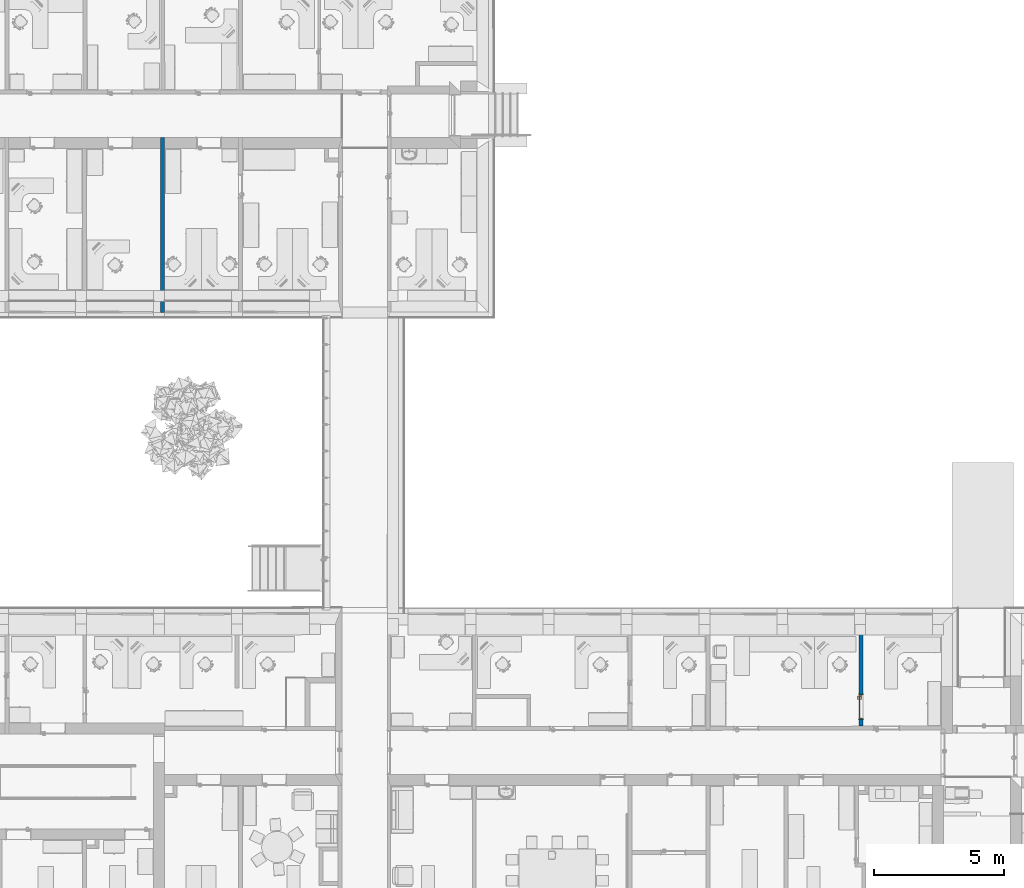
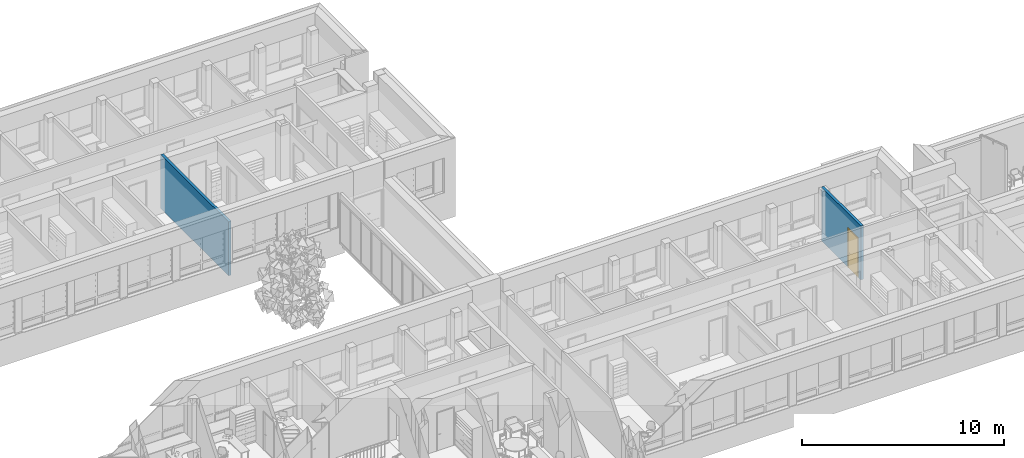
# One storey, part 18 of 194: 2 walls, 1 door, 1 opening.
"""IFC2X3 building model written with IfcOpenShell, lengths in millimetres."""

from ifc_helpers import new_model, entity, si_unit, converted_unit, derived_unit, money_unit, direction, frame, origin_with_axes, origin_2d_with_axis, place, context, subcontext, project, spatial, polyline, rectangle, outline, extrude, open_shell, faceted_brep, surface_model, source, transform, mapped, material, layer, layer_set, layer_usage, type_object, element, fill, save


model = new_model("IFC2X3")

# Units and contexts
model_context = context("Model", 3, precision=1e-05, world=origin_with_axes(), true_north=direction((0.0, 1.0)))
body_context = subcontext(model_context, "Body", "Model", "MODEL_VIEW")
ifc_project = project(units=[si_unit("LENGTHUNIT", "METRE", prefix="MILLI"), si_unit("AREAUNIT", "SQUARE_METRE"), si_unit("VOLUMEUNIT", "CUBIC_METRE"), converted_unit("PLANEANGLEUNIT", "DEGREE", entity("IfcPlaneAngleMeasure", 0.0174532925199), si_unit("PLANEANGLEUNIT", "RADIAN"), dimensions=[0, 0, 0, 0, 0, 0, 0]), si_unit("SOLIDANGLEUNIT", "STERADIAN"), money_unit("EUR"), converted_unit("TIMEUNIT", "Year", entity("IfcTimeMeasure", 31556926.0), si_unit("TIMEUNIT", "SECOND"), dimensions=[0, 0, 1, 0, 0, 0, 0]), si_unit("MASSUNIT", "GRAM", prefix="KILO"), si_unit("THERMODYNAMICTEMPERATUREUNIT", "DEGREE_CELSIUS"), si_unit("LUMINOUSINTENSITYUNIT", "LUMEN"), si_unit("ENERGYUNIT", "JOULE", prefix="MEGA"), derived_unit("THERMALCONDUCTANCEUNIT", [(si_unit("POWERUNIT", "WATT"), 1), (si_unit("LENGTHUNIT", "METRE"), -1), (si_unit("THERMODYNAMICTEMPERATUREUNIT", "KELVIN"), -1)]), derived_unit("SPECIFICHEATCAPACITYUNIT", [(si_unit("ENERGYUNIT", "JOULE"), 1), (si_unit("MASSUNIT", "GRAM", prefix="KILO"), -1), (si_unit("THERMODYNAMICTEMPERATUREUNIT", "KELVIN"), -1)]), derived_unit("MASSDENSITYUNIT", [(si_unit("MASSUNIT", "GRAM", prefix="KILO"), 1), (si_unit("VOLUMEUNIT", "CUBIC_METRE"), -1)])], contexts=[model_context])

# Site, building, storey
site_placement = place(None, origin_with_axes())
site = spatial("IfcSite", under=ifc_project, at=site_placement, Name="Site", CompositionType="ELEMENT")
building_placement = place(site_placement, origin_with_axes())
building = spatial("IfcBuilding", under=site, at=building_placement, Name="Building", CompositionType="ELEMENT")
storey_placement = place(building_placement, frame((0.0, 0.0, 3000.0), z_axis=(0.0, 0.0, 1.0), x_axis=(1.0, 0.0, 0.0)))
storey = spatial("IfcBuildingStorey", under=building, at=storey_placement, Name="2 KORRUS", CompositionType="ELEMENT", Elevation=3000.0)

# Wall
ifc_material_1 = material(Name="Kivi -Ol.Olev Konstruktsioon")
ifc_layer_1 = layer(ifc_material_1, 150.0, ventilated="UNKNOWN")
ifc_layer_set_1 = layer_set([ifc_layer_1], Name="ol.olev ss 150")
ifc_layer_usage_1 = layer_usage(ifc_layer_set_1, "AXIS2", "NEGATIVE", 0.0)
wall_type_1 = type_object("IfcWallType", Name="SW - 022", PredefinedType="NOTDEFINED")
wall_1_placement = place(storey_placement, frame((31151.0464591, 65630.0453062, 0.0), z_axis=(0.0, 0.0, 1.0), x_axis=(0.00055437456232, -0.999999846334, 0.0)))
element("IfcWallStandardCase", 1, at=wall_1_placement, inside=storey, type_object=wall_type_1, material=ifc_layer_usage_1, Name="ol.olev ss 150", context=body_context, shape_type="SweptSolid", body=[
    extrude(outline(polyline([(9.09494701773e-10, -150.0), (6721.97422196, -150.0), (6721.97422196, 0.0), (0.0, 0.0), (9.09494701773e-10, -150.0)])), origin_with_axes(), (0.0, 0.0, 1.0), 3250.0),
])

# Wall, opening, door
ifc_material_2 = material(Name="Kivi -  Uus Konstruktsioon")
ifc_layer_2 = layer(ifc_material_2, 150.0, ventilated="UNKNOWN")
ifc_layer_set_2 = layer_set([ifc_layer_2], Name="uus ss 150")
ifc_layer_usage_2 = layer_usage(ifc_layer_set_2, "AXIS2", "NEGATIVE", 0.0)
wall_type_2 = type_object("IfcWallType", Name="SS-2", PredefinedType="NOTDEFINED")
wall_2_placement = place(storey_placement, frame((58049.2489502, 47302.325893, 0.0), z_axis=(0.0, 0.0, 1.0), x_axis=(0.0, -1.0, 0.0)))
wall_2 = element("IfcWallStandardCase", 2, at=wall_2_placement, inside=storey, type_object=wall_type_2, material=ifc_layer_usage_2, Name="uus ss 150", context=body_context, shape_type="SweptSolid", body=[
    extrude(outline(polyline([(430.0, -150.0), (4336.96371446, -150.0), (4336.84135687, 0.0), (430.0, 0.0), (430.0, -150.0)])), origin_with_axes(), (0.0, 0.0, 1.0), 3250.0),
])
opening_placement = place(wall_2_placement, frame((3582.94916904, 0.0, 0.0), z_axis=(0.0, 0.0, 1.0), x_axis=(1.0, 0.0, 0.0)))
opening = element("IfcOpeningElement", 3, at=opening_placement, cuts=wall_2, Name="Siseuks * Door 22", context=body_context, shape_type="SweptSolid", body=[
    extrude(rectangle(XDim=950.000000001, YDim=2370.0, at=origin_2d_with_axis()), frame((0.0, 150.0, 1185.0), z_axis=(0.0, 1.0, 0.0), x_axis=(1.0, 0.0, 0.0)), (0.0, 0.0, -1.0), 450.0),
    extrude(rectangle(XDim=1024.0, YDim=2407.0, at=origin_2d_with_axis()), frame((0.0, 0.0, 1203.5), z_axis=(0.0, 1.0, 0.0), x_axis=(1.0, 0.0, 0.0)), (0.0, 0.0, 1.0), 150.0),
    extrude(rectangle(XDim=1024.0, YDim=2407.0, at=origin_2d_with_axis()), frame((0.0, -150.0, 1203.5), z_axis=(0.0, -1.0, 0.0), x_axis=(1.0, 0.0, 0.0)), (0.0, 0.0, 1.0), 150.0),
])
door_style = type_object("IfcDoorStyle", Name="SU-B225 A   950×2\xa0370", ConstructionType="NOTDEFINED", OperationType="SINGLE_SWING_LEFT", ParameterTakesPrecedence=False, Sizeable=False)
shared_shape = source(origin_with_axes(), body_context, "Body", "SurfaceModel", [
    faceted_brep([(475.0, -115.0, 0.0), (475.0, -150.0, 0.0), (450.0, -150.0, 0.0), (450.0, -115.0, 0.0), (475.0, -115.0, 2370.0), (475.0, -150.0, 2370.0), (450.0, -150.0, 2345.0), (450.0, -115.0, 2345.0)], [[[0, 1, 2, 3]], [[4, 5, 1, 0]], [[1, 5, 6, 2]], [[3, 2, 6, 7]], [[0, 3, 7, 4]], [[7, 6, 5, 4]]]),
    faceted_brep([(-475.0, -115.0, 2370.0), (-475.0, -150.0, 2370.0), (-450.0, -150.0, 2345.0), (-450.0, -115.0, 2345.0), (-475.0, -115.0, 0.0), (-475.0, -150.0, 0.0), (-450.0, -150.0, 0.0), (-450.0, -115.0, 0.0)], [[[0, 1, 2, 3]], [[4, 5, 1, 0]], [[1, 5, 6, 2]], [[3, 2, 6, 7]], [[0, 3, 7, 4]], [[7, 6, 5, 4]]]),
    faceted_brep([(450.0, -115.0, 2345.0), (450.0, -150.0, 2345.0), (-450.0, -150.0, 2345.0), (-450.0, -115.0, 2345.0), (475.0, -115.0, 2370.0), (475.0, -150.0, 2370.0), (-475.0, -150.0, 2370.0), (-475.0, -115.0, 2370.0)], [[[0, 1, 2, 3]], [[4, 5, 1, 0]], [[1, 5, 6, 2]], [[3, 2, 6, 7]], [[0, 3, 7, 4]], [[7, 6, 5, 4]]]),
    faceted_brep([(512.0, -169.0, 0.0), (462.0, -169.0, 0.0), (462.0, -150.0, 0.0), (512.0, -150.0, 0.0), (512.0, -169.0, 2407.0), (462.0, -169.0, 2357.0), (462.0, -150.0, 2357.0), (512.0, -150.0, 2407.0)], [[[0, 1, 2, 3]], [[0, 4, 5, 1]], [[1, 5, 6, 2]], [[3, 2, 6, 7]], [[4, 0, 3, 7]], [[5, 4, 7, 6]]]),
    faceted_brep([(-512.0, -169.0, 2407.0), (-462.0, -169.0, 2357.0), (-462.0, -150.0, 2357.0), (-512.0, -150.0, 2407.0), (-512.0, -169.0, 0.0), (-462.0, -169.0, 0.0), (-462.0, -150.0, 0.0), (-512.0, -150.0, 0.0)], [[[0, 1, 2, 3]], [[0, 4, 5, 1]], [[1, 5, 6, 2]], [[3, 2, 6, 7]], [[4, 0, 3, 7]], [[5, 4, 7, 6]]]),
    faceted_brep([(512.0, -169.0, 2407.0), (462.0, -169.0, 2357.0), (462.0, -150.0, 2357.0), (512.0, -150.0, 2407.0), (-512.0, -169.0, 2407.0), (-462.0, -169.0, 2357.0), (-462.0, -150.0, 2357.0), (-512.0, -150.0, 2407.0)], [[[0, 1, 2, 3]], [[0, 4, 5, 1]], [[1, 5, 6, 2]], [[3, 2, 6, 7]], [[4, 0, 3, 7]], [[5, 4, 7, 6]]]),
    faceted_brep([(512.0, 19.0, 0.0), (512.0, 0.0, 0.0), (462.0, 0.0, 0.0), (462.0, 19.0, 0.0), (512.0, 19.0, 2407.0), (512.0, 0.0, 2407.0), (462.0, 0.0, 2357.0), (462.0, 19.0, 2357.0)], [[[0, 1, 2, 3]], [[4, 5, 1, 0]], [[1, 5, 6, 2]], [[3, 2, 6, 7]], [[0, 3, 7, 4]], [[7, 6, 5, 4]]]),
    faceted_brep([(-512.0, 19.0, 2407.0), (-512.0, 0.0, 2407.0), (-462.0, 0.0, 2357.0), (-462.0, 19.0, 2357.0), (-512.0, 19.0, 0.0), (-512.0, 0.0, 0.0), (-462.0, 0.0, 0.0), (-462.0, 19.0, 0.0)], [[[0, 1, 2, 3]], [[4, 5, 1, 0]], [[1, 5, 6, 2]], [[3, 2, 6, 7]], [[0, 3, 7, 4]], [[7, 6, 5, 4]]]),
    faceted_brep([(512.0, 19.0, 2407.0), (512.0, 0.0, 2407.0), (462.0, 0.0, 2357.0), (462.0, 19.0, 2357.0), (-512.0, 19.0, 2407.0), (-512.0, 0.0, 2407.0), (-462.0, 0.0, 2357.0), (-462.0, 19.0, 2357.0)], [[[0, 1, 2, 3]], [[4, 5, 1, 0]], [[1, 5, 6, 2]], [[3, 2, 6, 7]], [[0, 3, 7, 4]], [[7, 6, 5, 4]]]),
    faceted_brep([(435.0, -40.0, 0.0), (435.0, -115.0, 0.0), (435.0, -115.0, 2330.0), (435.0, -40.0, 2330.0), (447.0, -40.0, 0.0), (447.0, 0.0, 0.0), (475.0, 0.0, 0.0), (475.0, -115.0, 0.0), (475.0, -115.0, 2330.0), (447.0, -40.0, 2330.0), (475.0, 0.0, 2330.0), (447.0, 0.0, 2330.0)], [[[0, 1, 2, 3]], [[4, 5, 6, 7, 1, 0]], [[1, 7, 8, 2]], [[9, 3, 2, 8, 10, 11]], [[9, 4, 0, 3]], [[11, 5, 4, 9]], [[11, 10, 6, 5]], [[6, 10, 8, 7]]]),
    faceted_brep([(-447.0, -40.0, 2330.0), (-447.0, 0.0, 2330.0), (-475.0, 0.0, 2330.0), (-475.0, -115.0, 2330.0), (-435.0, -115.0, 2330.0), (-435.0, -40.0, 2330.0), (-447.0, -40.0, 0.0), (-447.0, 0.0, 0.0), (-475.0, 0.0, 0.0), (-475.0, -115.0, 0.0), (-435.0, -115.0, 0.0), (-435.0, -40.0, 0.0)], [[[0, 1, 2, 3, 4, 5]], [[0, 6, 7, 1]], [[7, 8, 2, 1]], [[2, 8, 9, 3]], [[3, 9, 10, 4]], [[5, 4, 10, 11]], [[5, 11, 6, 0]], [[6, 11, 10, 9, 8, 7]]]),
    faceted_brep([(447.0, 0.0, 2342.0), (-447.0, 0.0, 2342.0), (-447.0, 0.0, 2330.0), (-475.0, 0.0, 2330.0), (-475.0, 0.0, 2370.0), (475.0, 0.0, 2370.0), (475.0, 0.0, 2330.0), (447.0, 0.0, 2330.0), (447.0, -40.0, 2342.0), (-447.0, -40.0, 2342.0), (-447.0, -40.0, 2330.0), (-435.0, -40.0, 2330.0), (-435.0, -115.0, 2330.0), (-475.0, -115.0, 2330.0), (-475.0, -115.0, 2370.0), (475.0, -115.0, 2370.0), (475.0, -115.0, 2330.0), (447.0, -40.0, 2330.0), (435.0, -115.0, 2330.0), (435.0, -40.0, 2330.0)], [[[0, 1, 2, 3, 4, 5, 6, 7]], [[0, 8, 9, 1]], [[1, 9, 10, 2]], [[10, 11, 12, 13, 3, 2]], [[4, 3, 13, 14]], [[5, 4, 14, 15]], [[6, 5, 15, 16]], [[17, 7, 6, 16, 18, 19]], [[7, 17, 8, 0]], [[10, 9, 8, 17, 19, 11]], [[19, 18, 12, 11]], [[12, 18, 16, 15, 14, 13]]]),
    faceted_brep([(425.5, -40.0, 1060.0), (368.5, -40.0, 1060.0), (368.5, -43.0, 1060.0), (425.5, -43.0, 1060.0), (425.5, -40.0, 870.0), (368.5, -40.0, 870.0), (368.5, -43.0, 870.0), (425.5, -43.0, 870.0)], [[[0, 1, 2, 3]], [[0, 4, 5, 1]], [[1, 5, 6, 2]], [[3, 2, 6, 7]], [[4, 0, 3, 7]], [[5, 4, 7, 6]]]),
    surface_model("IfcShellBasedSurfaceModel", [(387.0, -53.0, 1000.0), (389.928932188, -53.0, 992.928932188), (389.928932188, -72.303560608, 992.928932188), (387.0, -72.0150859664, 1000.0), (397.0, -53.0, 990.0), (397.0, -73.0, 990.0), (388.816790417, -77.8946748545, 992.928932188), (386.057796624, -76.751862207, 1000.0), (389.928932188, -53.0, 1007.07106781), (389.928932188, -72.303560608, 1007.07106781), (404.071067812, -53.0, 992.928932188), (404.071067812, -73.696439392, 992.928932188), (395.47759065, -80.6536686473, 990.0), (386.044179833, -82.0441798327, 992.928932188), (383.932537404, -79.9325374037, 1000.0), (388.816790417, -77.8946748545, 1007.07106781), (397.0, -53.0, 1010.0), (397.0, -73.0, 1010.0), (407.0, -53.0, 1000.0), (407.0, -73.9849140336, 1000.0), (402.138390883, -83.4126624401, 992.928932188), (391.142135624, -87.1421356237, 990.0), (381.894674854, -84.8167904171, 992.928932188), (380.751862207, -82.0577966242, 1000.0), (386.044179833, -82.0441798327, 1007.07106781), (395.47759065, -80.6536686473, 1010.0), (404.071067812, -53.0, 1007.07106781), (404.071067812, -73.696439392, 1007.07106781), (404.897384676, -84.5554750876, 1000.0), (396.240091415, -92.2400914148, 992.928932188), (384.653668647, -91.4775906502, 990.0), (376.303560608, -85.9289321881, 992.928932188), (376.015085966, -83.0, 1000.0), (381.894674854, -84.8167904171, 1007.07106781), (391.142135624, -87.1421356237, 1010.0), (402.138390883, -83.4126624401, 1007.07106781), (398.351733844, -94.3517338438, 1000.0), (387.41266244, -98.1383908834, 992.928932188), (377.0, -93.0, 990.0), (307.696439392, -85.9289321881, 992.928932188), (307.984914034, -83.0, 1000.0), (376.303560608, -85.9289321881, 1007.07106781), (384.653668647, -91.4775906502, 1010.0), (396.240091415, -92.2400914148, 1007.07106781), (388.555475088, -100.897384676, 1000.0), (377.696439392, -100.071067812, 992.928932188), (307.0, -93.0, 990.0), (302.105325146, -84.8167904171, 992.928932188), (303.248137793, -82.0577966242, 1000.0), (307.696439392, -85.9289321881, 1007.07106781), (377.0, -93.0, 1010.0), (387.41266244, -98.1383908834, 1007.07106781), (377.984914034, -103.0, 1000.0), (306.303560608, -100.071067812, 992.928932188), (299.346331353, -91.4775906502, 990.0), (297.955820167, -82.0441798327, 992.928932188), (300.067462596, -79.9325374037, 1000.0), (302.105325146, -84.8167904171, 1007.07106781), (307.0, -93.0, 1010.0), (377.696439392, -100.071067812, 1007.07106781), (306.015085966, -103.0, 1000.0), (296.58733756, -98.1383908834, 992.928932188), (292.857864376, -87.1421356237, 990.0), (295.183209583, -77.8946748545, 992.928932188), (297.942203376, -76.751862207, 1000.0), (297.955820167, -82.0441798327, 1007.07106781), (299.346331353, -91.4775906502, 1010.0), (306.303560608, -100.071067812, 1007.07106781), (295.444524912, -100.897384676, 1000.0), (287.759908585, -92.2400914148, 992.928932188), (288.52240935, -80.6536686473, 990.0), (294.071067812, -72.303560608, 992.928932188), (297.0, -72.0150859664, 1000.0), (295.183209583, -77.8946748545, 1007.07106781), (292.857864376, -87.1421356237, 1010.0), (296.58733756, -98.1383908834, 1007.07106781), (285.648266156, -94.3517338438, 1000.0), (281.861609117, -83.4126624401, 992.928932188), (287.0, -73.0, 990.0), (294.071067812, -53.0, 992.928932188), (297.0, -53.0, 1000.0), (294.071067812, -72.303560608, 1007.07106781), (288.52240935, -80.6536686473, 1010.0), (287.759908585, -92.2400914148, 1007.07106781), (279.102615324, -84.5554750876, 1000.0), (279.928932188, -73.696439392, 992.928932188), (287.0, -53.0, 990.0), (279.928932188, -53.0, 992.928932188), (277.0, -53.0, 1000.0), (279.928932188, -53.0, 1007.07106781), (287.0, -53.0, 1010.0), (294.071067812, -53.0, 1007.07106781), (287.0, -73.0, 1010.0), (281.861609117, -83.4126624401, 1007.07106781), (277.0, -73.9849140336, 1000.0), (279.928932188, -73.696439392, 1007.07106781)], [open_shell([[[0, 1, 2, 3]], [[1, 4, 5, 2]], [[3, 2, 6, 7]], [[8, 0, 3, 9]], [[4, 10, 11, 5]], [[2, 5, 12, 6]], [[7, 6, 13, 14]], [[9, 3, 7, 15]], [[16, 8, 9, 17]], [[10, 18, 19, 11]], [[5, 11, 20, 12]], [[6, 12, 21, 13]], [[14, 13, 22, 23]], [[15, 7, 14, 24]], [[17, 9, 15, 25]], [[26, 16, 17, 27]], [[18, 26, 27, 19]], [[11, 19, 28, 20]], [[12, 20, 29, 21]], [[13, 21, 30, 22]], [[23, 22, 31, 32]], [[24, 14, 23, 33]], [[25, 15, 24, 34]], [[27, 17, 25, 35]], [[19, 27, 35, 28]], [[20, 28, 36, 29]], [[21, 29, 37, 30]], [[22, 30, 38, 31]], [[32, 31, 39, 40]], [[33, 23, 32, 41]], [[34, 24, 33, 42]], [[35, 25, 34, 43]], [[28, 35, 43, 36]], [[29, 36, 44, 37]], [[30, 37, 45, 38]], [[31, 38, 46, 39]], [[40, 39, 47, 48]], [[41, 32, 40, 49]], [[42, 33, 41, 50]], [[43, 34, 42, 51]], [[36, 43, 51, 44]], [[37, 44, 52, 45]], [[38, 45, 53, 46]], [[39, 46, 54, 47]], [[48, 47, 55, 56]], [[49, 40, 48, 57]], [[50, 41, 49, 58]], [[51, 42, 50, 59]], [[44, 51, 59, 52]], [[45, 52, 60, 53]], [[46, 53, 61, 54]], [[47, 54, 62, 55]], [[56, 55, 63, 64]], [[57, 48, 56, 65]], [[58, 49, 57, 66]], [[59, 50, 58, 67]], [[52, 59, 67, 60]], [[53, 60, 68, 61]], [[54, 61, 69, 62]], [[55, 62, 70, 63]], [[64, 63, 71, 72]], [[65, 56, 64, 73]], [[66, 57, 65, 74]], [[67, 58, 66, 75]], [[60, 67, 75, 68]], [[61, 68, 76, 69]], [[62, 69, 77, 70]], [[63, 70, 78, 71]], [[72, 71, 79, 80]], [[73, 64, 72, 81]], [[74, 65, 73, 82]], [[75, 66, 74, 83]], [[68, 75, 83, 76]], [[69, 76, 84, 77]], [[70, 77, 85, 78]], [[71, 78, 86, 79]], [[80, 79, 86, 87, 88, 89, 90, 91]], [[81, 72, 80, 91]], [[82, 73, 81, 92]], [[83, 74, 82, 93]], [[76, 83, 93, 84]], [[77, 84, 94, 85]], [[78, 85, 87, 86]], [[85, 94, 88, 87]], [[94, 95, 89, 88]], [[95, 92, 90, 89]], [[92, 81, 91, 90]], [[93, 82, 92, 95]], [[84, 93, 95, 94]]])]),
    faceted_brep([(386.607695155, -53.0, 994.0), (385.0, -53.0, 1000.0), (384.0, -43.0, 1000.0), (385.741669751, -43.0, 993.5), (391.0, -53.0, 989.607695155), (397.0, -53.0, 988.0), (403.0, -53.0, 989.607695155), (407.392304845, -53.0, 994.0), (409.0, -53.0, 1000.0), (407.392304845, -53.0, 1006.0), (403.0, -53.0, 1010.39230485), (397.0, -53.0, 1012.0), (391.0, -53.0, 1010.39230485), (386.607695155, -53.0, 1006.0), (385.741669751, -43.0, 1006.5), (390.5, -43.0, 1011.25833025), (397.0, -43.0, 1013.0), (403.5, -43.0, 1011.25833025), (408.258330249, -43.0, 1006.5), (410.0, -43.0, 1000.0), (408.258330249, -43.0, 993.5), (403.5, -43.0, 988.741669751), (397.0, -43.0, 987.0), (390.5, -43.0, 988.741669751)], [[[0, 1, 2, 3]], [[1, 0, 4, 5, 6, 7, 8, 9, 10, 11, 12, 13]], [[1, 13, 14, 2]], [[2, 14, 15, 16, 17, 18, 19, 20, 21, 22, 23, 3]], [[4, 0, 3, 23]], [[5, 4, 23, 22]], [[6, 5, 22, 21]], [[7, 6, 21, 20]], [[8, 7, 20, 19]], [[9, 8, 19, 18]], [[10, 9, 18, 17]], [[11, 10, 17, 16]], [[12, 11, 16, 15]], [[13, 12, 15, 14]]]),
    faceted_brep([(379.679491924, -47.0, 895.0), (377.0, -47.0, 905.0), (375.0, -43.0, 905.0), (377.947441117, -43.0, 894.0), (387.0, -47.0, 887.679491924), (397.0, -47.0, 885.0), (407.0, -47.0, 887.679491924), (414.320508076, -47.0, 895.0), (417.0, -47.0, 905.0), (414.320508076, -47.0, 915.0), (407.0, -47.0, 922.320508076), (397.0, -47.0, 925.0), (387.0, -47.0, 922.320508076), (379.679491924, -47.0, 915.0), (377.947441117, -43.0, 916.0), (386.0, -43.0, 924.052558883), (397.0, -43.0, 927.0), (408.0, -43.0, 924.052558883), (416.052558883, -43.0, 916.0), (419.0, -43.0, 905.0), (416.052558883, -43.0, 894.0), (408.0, -43.0, 885.947441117), (397.0, -43.0, 883.0), (386.0, -43.0, 885.947441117)], [[[0, 1, 2, 3]], [[1, 0, 4, 5, 6, 7, 8, 9, 10, 11, 12, 13]], [[1, 13, 14, 2]], [[2, 14, 15, 16, 17, 18, 19, 20, 21, 22, 23, 3]], [[4, 0, 3, 23]], [[5, 4, 23, 22]], [[6, 5, 22, 21]], [[7, 6, 21, 20]], [[8, 7, 20, 19]], [[9, 8, 19, 18]], [[10, 9, 18, 17]], [[11, 10, 17, 16]], [[12, 11, 16, 15]], [[13, 12, 15, 14]]]),
    faceted_brep([(392.050252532, -49.0, 909.050252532), (390.0, -49.0, 914.0), (389.0, -47.0, 914.0), (391.343145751, -47.0, 908.343145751), (397.0, -49.0, 907.0), (401.949747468, -49.0, 909.050252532), (404.0, -49.0, 914.0), (401.949747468, -49.0, 918.949747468), (397.0, -49.0, 921.0), (392.050252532, -49.0, 918.949747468), (391.343145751, -47.0, 919.656854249), (397.0, -47.0, 922.0), (402.656854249, -47.0, 919.656854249), (405.0, -47.0, 914.0), (402.656854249, -47.0, 908.343145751), (397.0, -47.0, 906.0)], [[[0, 1, 2, 3]], [[1, 0, 4, 5, 6, 7, 8, 9]], [[1, 9, 10, 2]], [[2, 10, 11, 12, 13, 14, 15, 3]], [[4, 0, 3, 15]], [[5, 4, 15, 14]], [[6, 5, 14, 13]], [[7, 6, 13, 12]], [[8, 7, 12, 11]], [[9, 8, 11, 10]]]),
    faceted_brep([(425.5, 0.0, 1060.0), (425.5, 3.0, 1060.0), (368.5, 3.0, 1060.0), (368.5, 0.0, 1060.0), (425.5, 0.0, 870.0), (425.5, 3.0, 870.0), (368.5, 3.0, 870.0), (368.5, 0.0, 870.0)], [[[0, 1, 2, 3]], [[4, 5, 1, 0]], [[1, 5, 6, 2]], [[3, 2, 6, 7]], [[0, 3, 7, 4]], [[7, 6, 5, 4]]]),
    surface_model("IfcShellBasedSurfaceModel", [(387.0, 13.0, 1000.0), (387.0, 32.0150859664, 1000.0), (389.928932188, 32.303560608, 992.928932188), (389.928932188, 13.0, 992.928932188), (389.928932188, 13.0, 1007.07106781), (389.928932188, 32.303560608, 1007.07106781), (386.057796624, 36.751862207, 1000.0), (388.816790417, 37.8946748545, 992.928932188), (397.0, 33.0, 990.0), (397.0, 13.0, 990.0), (397.0, 13.0, 1010.0), (397.0, 33.0, 1010.0), (388.816790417, 37.8946748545, 1007.07106781), (383.932537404, 39.9325374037, 1000.0), (386.044179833, 42.0441798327, 992.928932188), (395.47759065, 40.6536686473, 990.0), (404.071067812, 33.696439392, 992.928932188), (404.071067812, 13.0, 992.928932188), (404.071067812, 13.0, 1007.07106781), (404.071067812, 33.696439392, 1007.07106781), (395.47759065, 40.6536686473, 1010.0), (386.044179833, 42.0441798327, 1007.07106781), (380.751862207, 42.0577966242, 1000.0), (381.894674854, 44.8167904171, 992.928932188), (391.142135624, 47.1421356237, 990.0), (402.138390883, 43.4126624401, 992.928932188), (407.0, 33.9849140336, 1000.0), (407.0, 13.0, 1000.0), (402.138390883, 43.4126624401, 1007.07106781), (391.142135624, 47.1421356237, 1010.0), (381.894674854, 44.8167904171, 1007.07106781), (376.015085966, 43.0, 1000.0), (376.303560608, 45.9289321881, 992.928932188), (384.653668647, 51.4775906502, 990.0), (396.240091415, 52.2400914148, 992.928932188), (404.897384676, 44.5554750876, 1000.0), (396.240091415, 52.2400914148, 1007.07106781), (384.653668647, 51.4775906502, 1010.0), (376.303560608, 45.9289321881, 1007.07106781), (307.984914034, 43.0, 1000.0), (307.696439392, 45.9289321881, 992.928932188), (377.0, 53.0, 990.0), (387.41266244, 58.1383908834, 992.928932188), (398.351733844, 54.3517338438, 1000.0), (387.41266244, 58.1383908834, 1007.07106781), (377.0, 53.0, 1010.0), (307.696439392, 45.9289321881, 1007.07106781), (303.248137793, 42.0577966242, 1000.0), (302.105325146, 44.8167904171, 992.928932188), (307.0, 53.0, 990.0), (377.696439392, 60.0710678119, 992.928932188), (388.555475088, 60.8973846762, 1000.0), (377.696439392, 60.0710678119, 1007.07106781), (307.0, 53.0, 1010.0), (302.105325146, 44.8167904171, 1007.07106781), (300.067462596, 39.9325374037, 1000.0), (297.955820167, 42.0441798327, 992.928932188), (299.346331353, 51.4775906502, 990.0), (306.303560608, 60.0710678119, 992.928932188), (377.984914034, 63.0, 1000.0), (306.303560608, 60.0710678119, 1007.07106781), (299.346331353, 51.4775906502, 1010.0), (297.955820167, 42.0441798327, 1007.07106781), (297.942203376, 36.751862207, 1000.0), (295.183209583, 37.8946748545, 992.928932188), (292.857864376, 47.1421356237, 990.0), (296.58733756, 58.1383908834, 992.928932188), (306.015085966, 63.0, 1000.0), (296.58733756, 58.1383908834, 1007.07106781), (292.857864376, 47.1421356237, 1010.0), (295.183209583, 37.8946748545, 1007.07106781), (297.0, 32.0150859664, 1000.0), (294.071067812, 32.303560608, 992.928932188), (288.52240935, 40.6536686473, 990.0), (287.759908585, 52.2400914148, 992.928932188), (295.444524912, 60.8973846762, 1000.0), (287.759908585, 52.2400914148, 1007.07106781), (288.52240935, 40.6536686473, 1010.0), (294.071067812, 32.303560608, 1007.07106781), (297.0, 13.0, 1000.0), (294.071067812, 13.0, 992.928932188), (287.0, 33.0, 990.0), (281.861609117, 43.4126624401, 992.928932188), (285.648266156, 54.3517338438, 1000.0), (281.861609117, 43.4126624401, 1007.07106781), (287.0, 33.0, 1010.0), (294.071067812, 13.0, 1007.07106781), (287.0, 13.0, 1010.0), (279.928932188, 13.0, 1007.07106781), (277.0, 13.0, 1000.0), (279.928932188, 13.0, 992.928932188), (287.0, 13.0, 990.0), (279.928932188, 33.696439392, 992.928932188), (279.102615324, 44.5554750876, 1000.0), (279.928932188, 33.696439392, 1007.07106781), (277.0, 33.9849140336, 1000.0)], [open_shell([[[0, 1, 2, 3]], [[4, 5, 1, 0]], [[1, 6, 7, 2]], [[3, 2, 8, 9]], [[10, 11, 5, 4]], [[5, 12, 6, 1]], [[6, 13, 14, 7]], [[2, 7, 15, 8]], [[9, 8, 16, 17]], [[18, 19, 11, 10]], [[11, 20, 12, 5]], [[12, 21, 13, 6]], [[13, 22, 23, 14]], [[7, 14, 24, 15]], [[8, 15, 25, 16]], [[17, 16, 26, 27]], [[27, 26, 19, 18]], [[19, 28, 20, 11]], [[20, 29, 21, 12]], [[21, 30, 22, 13]], [[22, 31, 32, 23]], [[14, 23, 33, 24]], [[15, 24, 34, 25]], [[16, 25, 35, 26]], [[26, 35, 28, 19]], [[28, 36, 29, 20]], [[29, 37, 30, 21]], [[30, 38, 31, 22]], [[31, 39, 40, 32]], [[23, 32, 41, 33]], [[24, 33, 42, 34]], [[25, 34, 43, 35]], [[35, 43, 36, 28]], [[36, 44, 37, 29]], [[37, 45, 38, 30]], [[38, 46, 39, 31]], [[39, 47, 48, 40]], [[32, 40, 49, 41]], [[33, 41, 50, 42]], [[34, 42, 51, 43]], [[43, 51, 44, 36]], [[44, 52, 45, 37]], [[45, 53, 46, 38]], [[46, 54, 47, 39]], [[47, 55, 56, 48]], [[40, 48, 57, 49]], [[41, 49, 58, 50]], [[42, 50, 59, 51]], [[51, 59, 52, 44]], [[52, 60, 53, 45]], [[53, 61, 54, 46]], [[54, 62, 55, 47]], [[55, 63, 64, 56]], [[48, 56, 65, 57]], [[49, 57, 66, 58]], [[50, 58, 67, 59]], [[59, 67, 60, 52]], [[60, 68, 61, 53]], [[61, 69, 62, 54]], [[62, 70, 63, 55]], [[63, 71, 72, 64]], [[56, 64, 73, 65]], [[57, 65, 74, 66]], [[58, 66, 75, 67]], [[67, 75, 68, 60]], [[68, 76, 69, 61]], [[69, 77, 70, 62]], [[70, 78, 71, 63]], [[71, 79, 80, 72]], [[64, 72, 81, 73]], [[65, 73, 82, 74]], [[66, 74, 83, 75]], [[75, 83, 76, 68]], [[76, 84, 77, 69]], [[77, 85, 78, 70]], [[78, 86, 79, 71]], [[79, 86, 87, 88, 89, 90, 91, 80]], [[72, 80, 91, 81]], [[73, 81, 92, 82]], [[74, 82, 93, 83]], [[83, 93, 84, 76]], [[84, 94, 85, 77]], [[85, 87, 86, 78]], [[94, 88, 87, 85]], [[95, 89, 88, 94]], [[92, 90, 89, 95]], [[81, 91, 90, 92]], [[82, 92, 95, 93]], [[93, 95, 94, 84]]])]),
    faceted_brep([(386.607695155, 13.0, 994.0), (385.741669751, 3.0, 993.5), (384.0, 3.0, 1000.0), (385.0, 13.0, 1000.0), (391.0, 13.0, 989.607695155), (390.5, 3.0, 988.741669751), (397.0, 3.0, 987.0), (403.5, 3.0, 988.741669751), (408.258330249, 3.0, 993.5), (410.0, 3.0, 1000.0), (408.258330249, 3.0, 1006.5), (403.5, 3.0, 1011.25833025), (397.0, 3.0, 1013.0), (390.5, 3.0, 1011.25833025), (385.741669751, 3.0, 1006.5), (386.607695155, 13.0, 1006.0), (391.0, 13.0, 1010.39230485), (397.0, 13.0, 1012.0), (403.0, 13.0, 1010.39230485), (407.392304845, 13.0, 1006.0), (409.0, 13.0, 1000.0), (407.392304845, 13.0, 994.0), (403.0, 13.0, 989.607695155), (397.0, 13.0, 988.0)], [[[0, 1, 2, 3]], [[4, 5, 1, 0]], [[2, 1, 5, 6, 7, 8, 9, 10, 11, 12, 13, 14]], [[3, 2, 14, 15]], [[3, 15, 16, 17, 18, 19, 20, 21, 22, 23, 4, 0]], [[23, 6, 5, 4]], [[22, 7, 6, 23]], [[21, 8, 7, 22]], [[20, 9, 8, 21]], [[19, 10, 9, 20]], [[18, 11, 10, 19]], [[17, 12, 11, 18]], [[16, 13, 12, 17]], [[15, 14, 13, 16]]]),
    faceted_brep([(379.679491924, 7.0, 895.0), (377.947441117, 3.0, 894.0), (375.0, 3.0, 905.0), (377.0, 7.0, 905.0), (387.0, 7.0, 887.679491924), (386.0, 3.0, 885.947441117), (397.0, 3.0, 883.0), (408.0, 3.0, 885.947441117), (416.052558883, 3.0, 894.0), (419.0, 3.0, 905.0), (416.052558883, 3.0, 916.0), (408.0, 3.0, 924.052558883), (397.0, 3.0, 927.0), (386.0, 3.0, 924.052558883), (377.947441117, 3.0, 916.0), (379.679491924, 7.0, 915.0), (387.0, 7.0, 922.320508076), (397.0, 7.0, 925.0), (407.0, 7.0, 922.320508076), (414.320508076, 7.0, 915.0), (417.0, 7.0, 905.0), (414.320508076, 7.0, 895.0), (407.0, 7.0, 887.679491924), (397.0, 7.0, 885.0)], [[[0, 1, 2, 3]], [[4, 5, 1, 0]], [[2, 1, 5, 6, 7, 8, 9, 10, 11, 12, 13, 14]], [[3, 2, 14, 15]], [[3, 15, 16, 17, 18, 19, 20, 21, 22, 23, 4, 0]], [[23, 6, 5, 4]], [[22, 7, 6, 23]], [[21, 8, 7, 22]], [[20, 9, 8, 21]], [[19, 10, 9, 20]], [[18, 11, 10, 19]], [[17, 12, 11, 18]], [[16, 13, 12, 17]], [[15, 14, 13, 16]]]),
    faceted_brep([(392.050252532, 9.0, 909.050252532), (391.343145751, 7.0, 908.343145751), (389.0, 7.0, 914.0), (390.0, 9.0, 914.0), (397.0, 9.0, 907.0), (397.0, 7.0, 906.0), (402.656854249, 7.0, 908.343145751), (405.0, 7.0, 914.0), (402.656854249, 7.0, 919.656854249), (397.0, 7.0, 922.0), (391.343145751, 7.0, 919.656854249), (392.050252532, 9.0, 918.949747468), (397.0, 9.0, 921.0), (401.949747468, 9.0, 918.949747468), (404.0, 9.0, 914.0), (401.949747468, 9.0, 909.050252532)], [[[0, 1, 2, 3]], [[4, 5, 1, 0]], [[2, 1, 5, 6, 7, 8, 9, 10]], [[3, 2, 10, 11]], [[3, 11, 12, 13, 14, 15, 4, 0]], [[15, 6, 5, 4]], [[14, 7, 6, 15]], [[13, 8, 7, 14]], [[12, 9, 8, 13]], [[11, 10, 9, 12]]]),
    faceted_brep([(-447.0, 0.0, 0.0), (447.0, 0.0, 0.0), (447.0, -40.0, 0.0), (-447.0, -40.0, 0.0), (-447.0, 0.0, 2342.0), (447.0, 0.0, 2342.0), (447.0, -40.0, 2342.0), (-447.0, -40.0, 2342.0)], [[[0, 1, 2, 3]], [[0, 4, 5, 1]], [[1, 5, 6, 2]], [[3, 2, 6, 7]], [[4, 0, 3, 7]], [[5, 4, 7, 6]]]),
])
door_placement = place(opening_placement, frame((475.0, 0.0, 0.0), z_axis=(0.0, 0.0, 1.0), x_axis=(-1.0, 0.0, 0.0)))
door = element("IfcDoor", 4, at=door_placement, inside=storey, type_object=door_style, Name="Siseuks * Door 22", OverallHeight=2370.0, OverallWidth=950.0, context=body_context, shape_type="MappedRepresentation", body=[
    mapped(shared_shape, transform((475.0, 150.0, 0.0))),
])
fill(opening, door)

save(model, "model.ifc")
